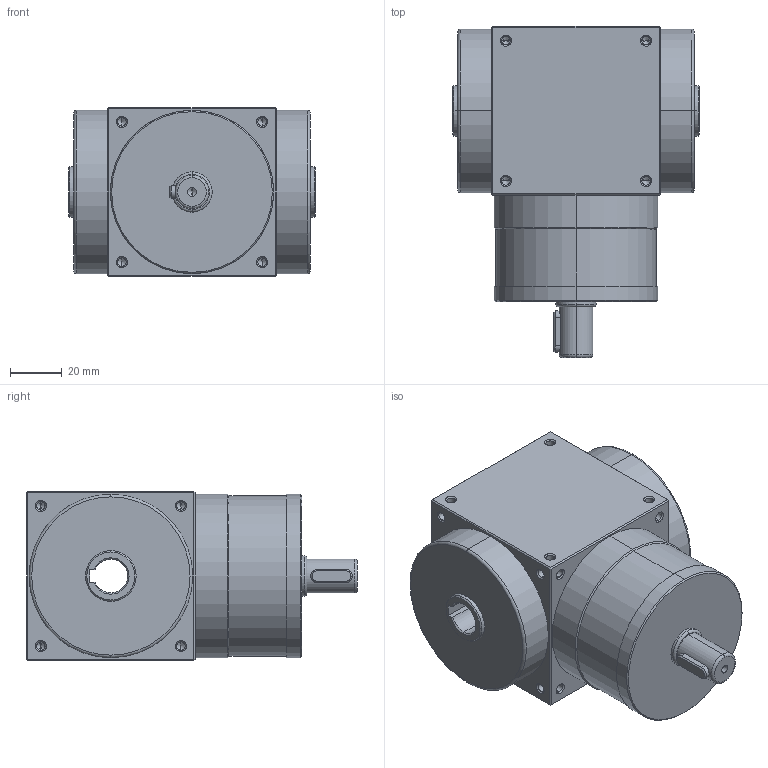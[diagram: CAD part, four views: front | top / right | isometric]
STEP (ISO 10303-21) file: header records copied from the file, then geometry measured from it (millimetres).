
FILE_DESCRIPTION (( 'STEP AP214' ), '1' );
FILE_NAME ('AT065-H-L1.STEP', '2020-05-09T04:32:12', ( 'User' ), ( 'Far123' ), 'SwSTEP 2.0', 'SolidWorks 2015', '' );
FILE_SCHEMA (( 'AUTOMOTIVE_DESIGN' ));
Length unit declared in the file: millimetre
Products named in the file (1): AT065-H-L1
Bounding box: 95 x 127.5 x 65 mm (x, y, z)
Volume: 469951.5 mm3; surface area: 45169.3 mm2
Topology: 1 solids, 1 shells, 285 faces, 738 edges, 407 vertices
Faces by surface type: cylinder 121, cone 114, plane 42, torus 8
Entity records: 9296 total; most frequent: CARTESIAN_POINT 1933, ORIENTED_EDGE 1376, DIRECTION 1316, EDGE_CURVE 688, AXIS2_PLACEMENT_3D 508, VERTEX_POINT 407, EDGE_LOOP 321, VECTOR 300
